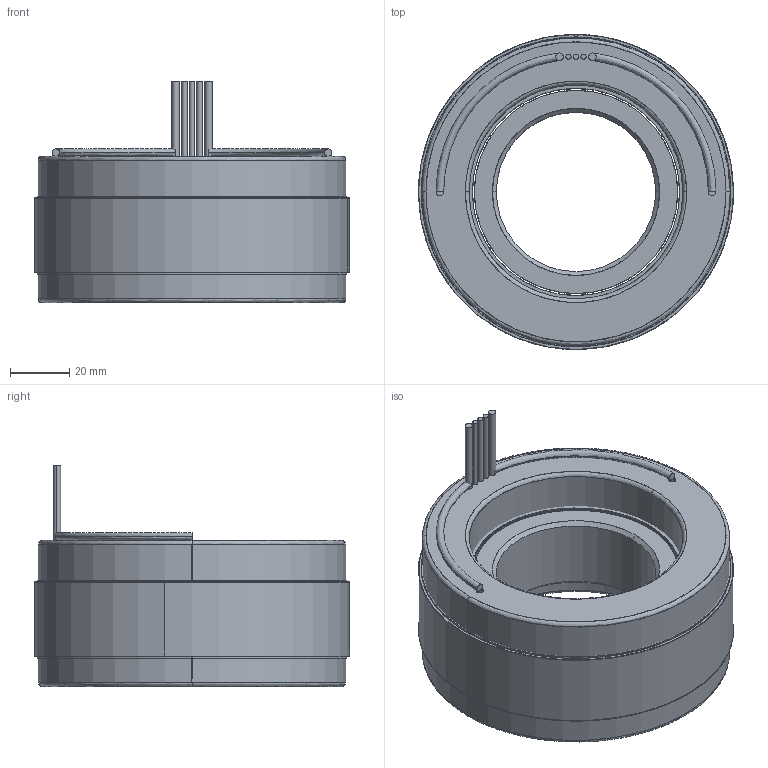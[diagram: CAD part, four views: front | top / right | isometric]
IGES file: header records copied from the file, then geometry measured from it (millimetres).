
Start section: SolidWorks IGES file using analytic representation for surfaces
Global section: file name: \\fs01.aveox.local\user documents\eng\My Documents\STANDARD STATOR ROTOR SETS\NEW DIRECT DRIVE MOTOR\4.2 OD 18S16P\6100329-01.IGS; native system: SolidWorks 2016; preprocessor: SolidWorks 2016; author: eng; date: 191023.143217; units: millimetre
Bounding box: 106.68 x 106.68 x 74.93 mm (x, y, z)
Surface area: 114510.9 mm2 (no closed solid volume)
Topology: 0 solids, 0 shells, 94 faces, 2628 edges, 2628 vertices
Faces by surface type: revolution 52, bspline 42
